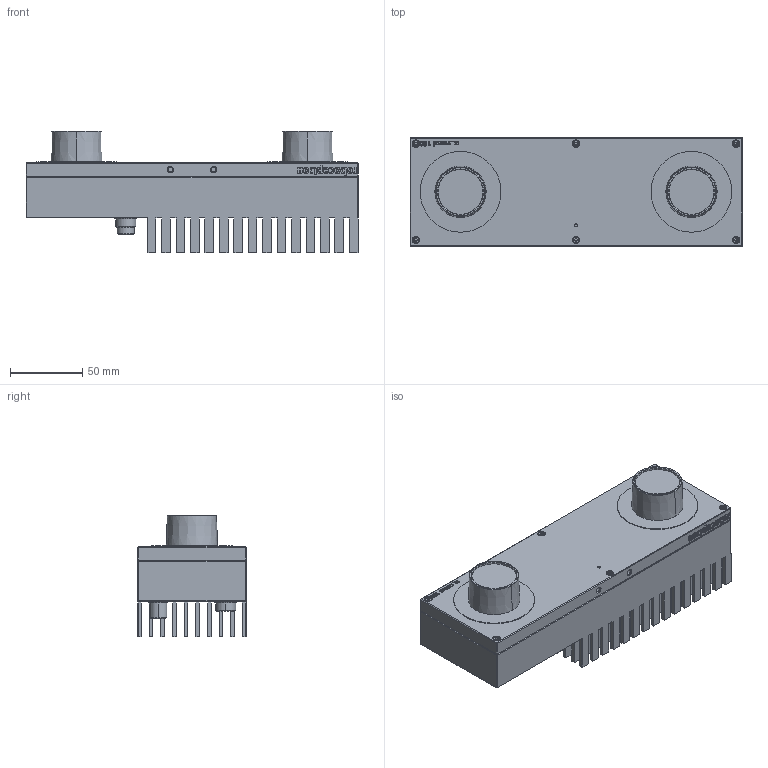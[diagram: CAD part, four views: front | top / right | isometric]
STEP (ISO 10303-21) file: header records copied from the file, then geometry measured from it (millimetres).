
FILE_DESCRIPTION((''),'2;1');
FILE_NAME('RC_VISARD160_VISUAL_MM','2020-09-25T10:57:32',('seibold'),(''),'CREO PARAMETRIC BY PTC INC, 2018500','CREO PARAMETRIC BY PTC INC, 2018500','');
FILE_SCHEMA(('AUTOMOTIVE_DESIGN { 1 0 10303 214 1 1 1 1 }'));
Length unit declared in the file: millimetre
Products named in the file (1): RC_VISARD160_VISUAL_MM
Bounding box: 230 x 75.24 x 84 mm (x, y, z)
Volume: 302265.8 mm3; surface area: 175404.2 mm2
Topology: 1 solids, 1 shells, 1414 faces, 3703 edges, 2433 vertices
Faces by surface type: plane 972, extrusion 298, cylinder 77, cone 63, torus 4
Entity records: 56957 total; most frequent: CARTESIAN_POINT 10428, ORIENTED_EDGE 7394, DIRECTION 5890, PRESENTATION_STYLE_ASSIGNMENT 3809, STYLED_ITEM 3705, CURVE_STYLE 3697, EDGE_CURVE 3697, VECTOR 3138
